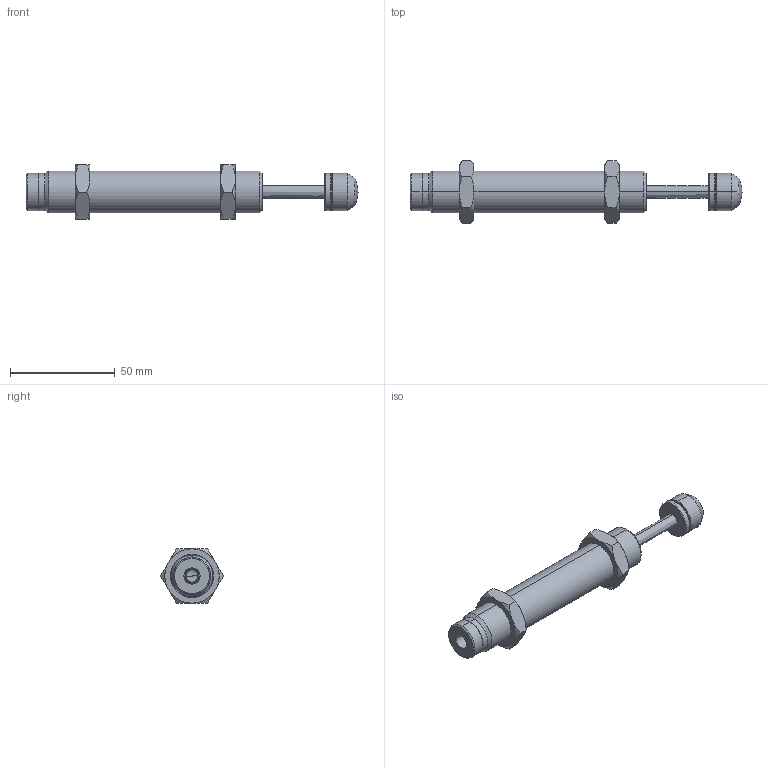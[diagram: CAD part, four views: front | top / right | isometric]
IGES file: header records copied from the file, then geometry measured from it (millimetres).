
Start section: SolidWorks IGES file using analytic representation for surfaces
Global section: file name: D:\IGS跡宒\AC2030-2J-SH.IGS,1; native system: 5HSolidWorks 2013; preprocessor: SolidWorks 2013; author: Administrator; date: 160406.152111; units: inch
Bounding box: 158.8 x 30.02 x 26 mm (x, y, z)
Surface area: 13285 mm2 (no closed solid volume)
Topology: 0 solids, 0 shells, 101 faces, 1548 edges, 1547 vertices
Faces by surface type: revolution 78, bspline 23
